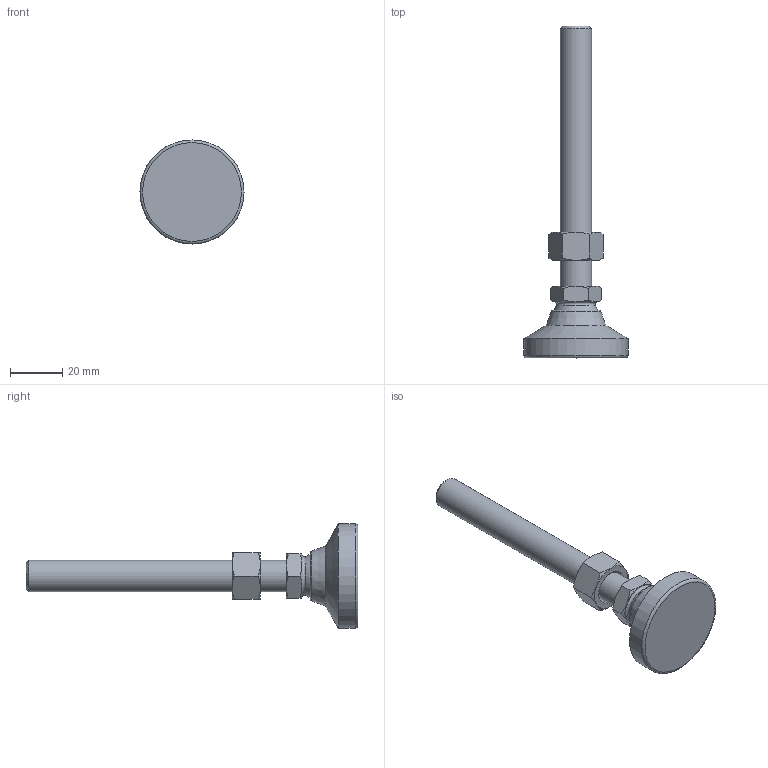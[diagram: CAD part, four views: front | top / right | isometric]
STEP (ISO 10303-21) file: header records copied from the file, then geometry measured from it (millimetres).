
FILE_DESCRIPTION( ( 'STEP AP214' ), ' ' );
FILE_NAME( 'O:/ganter_2015/teil_2/2_5/gn343_2/gn343_2_kr/Levelling foot with threaded stud GN 343.2-40-M12-100-KR-(0).stp', '2015-10-26T09:13:22', ( '' ), ( '' ), ' ', 'PARTsolutions', ' ' );
FILE_SCHEMA( ( 'AUTOMOTIVE_DESIGN { 1 0 10303 214 1 1 1 1 }' ) );
Length unit declared in the file: millimetre
Products named in the file (4): Levelling foot with threaded stud GN 343.2-40-M12-100-KR-(0); _Levelling foot with threaded stud GN 343.2-40-M12-100-KR-(0)_foot; _Levelling foot with threaded stud GN 343.2-40-M12-100-KR-(0)_screw; _Levelling foot with threaded stud GN 343.2-40-M12-100-KR-(0)_nut
Assembly tree (3 placements, depth 2):
  Levelling foot with threaded stud GN 343.2-40-M12-100-KR-(0)
    _Levelling foot with threaded stud GN 343.2-40-M12-100-KR-(0)_foot
    _Levelling foot with threaded stud GN 343.2-40-M12-100-KR-(0)_screw
    _Levelling foot with threaded stud GN 343.2-40-M12-100-KR-(0)_nut
Bounding box: 40 x 127.5 x 40 mm (x, y, z)
Volume: 30876.8 mm3; surface area: 10730.7 mm2
Topology: 3 solids, 3 shells, 56 faces, 117 edges, 68 vertices
Faces by surface type: cone 29, plane 19, torus 3, cylinder 3, sphere 2
Full cylindrical faces by diameter (mm): 10.106 x1, 12 x1, 40 x1
Entity records: 2066 total; most frequent: CARTESIAN_POINT 498, DIRECTION 212, ORIENTED_EDGE 200, AXIS2_PLACEMENT_3D 100, EDGE_CURVE 100, EDGE_LOOP 72, VERTEX_POINT 66, FACE_OUTER_BOUND 62
